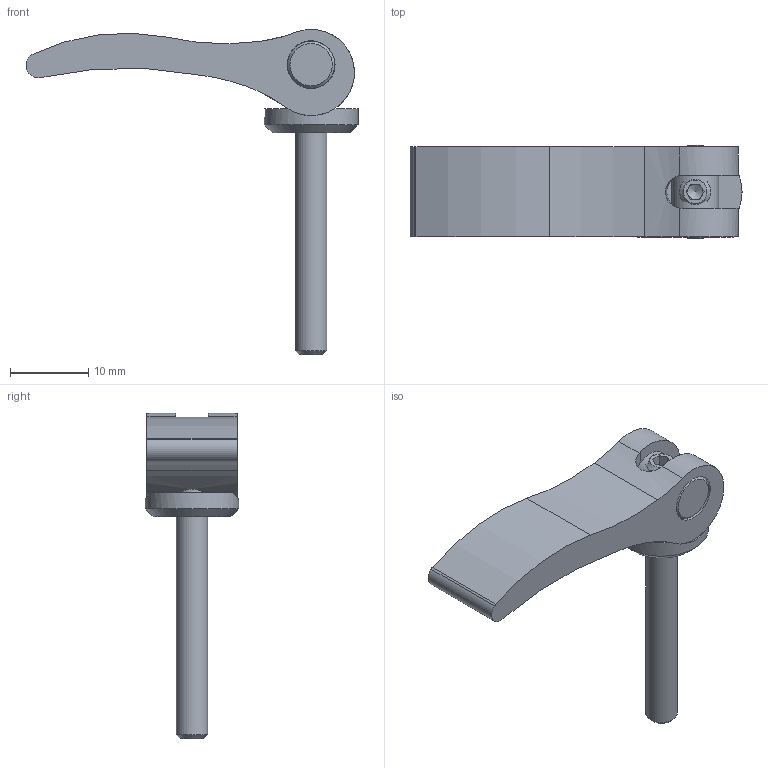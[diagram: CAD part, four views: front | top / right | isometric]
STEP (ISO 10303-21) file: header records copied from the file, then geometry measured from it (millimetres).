
FILE_DESCRIPTION(('STEP AP203'), '1');
FILE_NAME('À00360.11420410', '', ('UNSPECIFIED'), ('UNSPECIFIED'), 'C3D Converter', 'C3D Toolkit', '');
FILE_SCHEMA(('CONFIG_CONTROL_DESIGN'));
Length unit declared in the file: millimetre
Products named in the file (5): А00360.42.03; А00360.42.02; А00360.42.01
Assembly tree (4 placements, depth 2):
  (unnamed)
    А00360.42.03
    А00360.42.02
    А00360.42.01
    (unnamed)
Bounding box: 42.36 x 11.94 x 41.5 mm (x, y, z)
Volume: 3159.6 mm3; surface area: 2824.5 mm2
Topology: 4 solids, 4 shells, 49 faces, 125 edges, 82 vertices
Faces by surface type: plane 23, cylinder 20, cone 6
Full cylindrical faces by diameter (mm): 3.242 x1, 4 x1, 4.5 x1, 6 x1, 6.1 x2, 11.94 x1
Entity records: 2571 total; most frequent: CARTESIAN_POINT 899, DIRECTION 258, ORIENTED_EDGE 222, EDGE_CURVE 111, AXIS2_PLACEMENT_3D 108, VERTEX_POINT 81, EDGE_LOOP 68, FACE_BOUND 57
